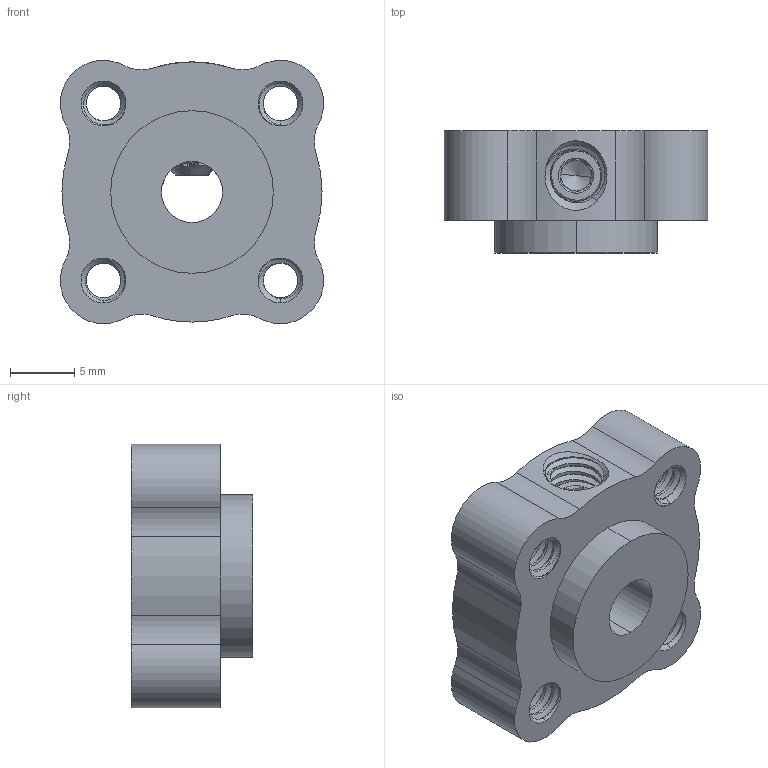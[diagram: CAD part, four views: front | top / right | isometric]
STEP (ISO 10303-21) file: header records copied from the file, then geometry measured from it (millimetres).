
FILE_DESCRIPTION (( 'STEP AP203' ), '1' );
FILE_NAME ('545544 assembly.STEP', '2017-06-30T21:03:56', ( '' ), ( '' ), 'SwSTEP 2.0', 'SolidWorks 2016', '' );
FILE_SCHEMA (( 'CONFIG_CONTROL_DESIGN' ));
Length unit declared in the file: inch
Products named in the file (3): 545544 assembly; 632138_91375A438; 545544
Assembly tree (2 placements, depth 2):
  545544 assembly
    545544
    632138_91375A438
Bounding box: 20.57 x 9.53 x 20.57 mm (x, y, z)
Volume: 2647.3 mm3; surface area: 2204.2 mm2
Topology: 2 solids, 2 shells, 314 faces, 887 edges, 575 vertices
Faces by surface type: cylinder 232, cone 45, bspline 20, plane 17
Entity records: 23839 total; most frequent: CARTESIAN_POINT 16778, ORIENTED_EDGE 1766, DIRECTION 1106, EDGE_CURVE 883, VERTEX_POINT 575, AXIS2_PLACEMENT_3D 421, EDGE_LOOP 328, ADVANCED_FACE 314
